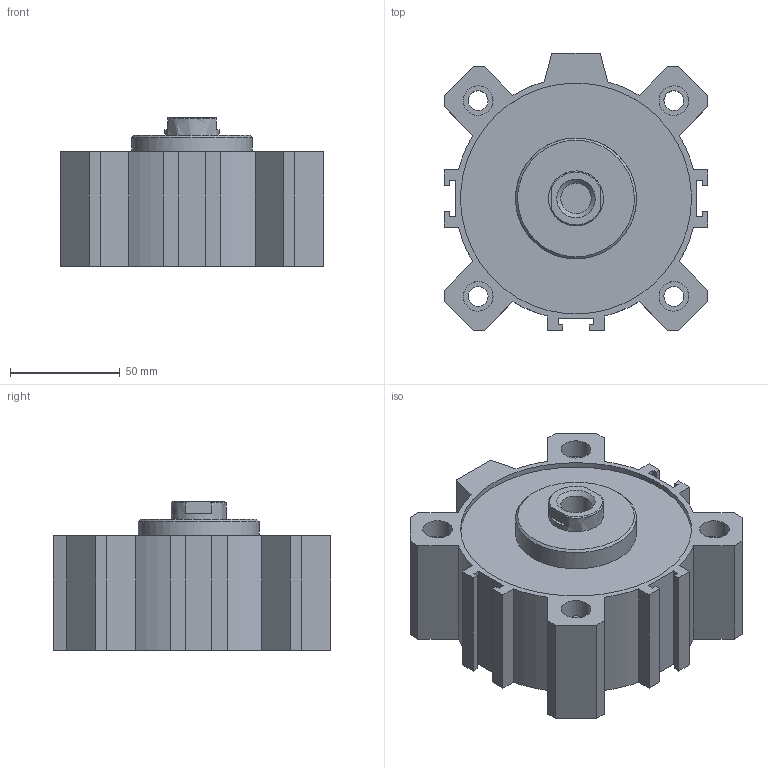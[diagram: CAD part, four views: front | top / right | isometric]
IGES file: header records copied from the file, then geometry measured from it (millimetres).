
Global section: file name: 1511_100_0000; native system: Autodesk Inventor 2014; preprocessor: unknown; author: A. Manieri; date: 20160824.162458; units: millimetre
Bounding box: 120 x 126 x 67.5 mm (x, y, z)
Volume: 593519 mm3; surface area: 113505.1 mm2
Topology: 2 solids, 2 shells, 119 faces, 307 edges, 210 vertices
Faces by surface type: bspline 119
